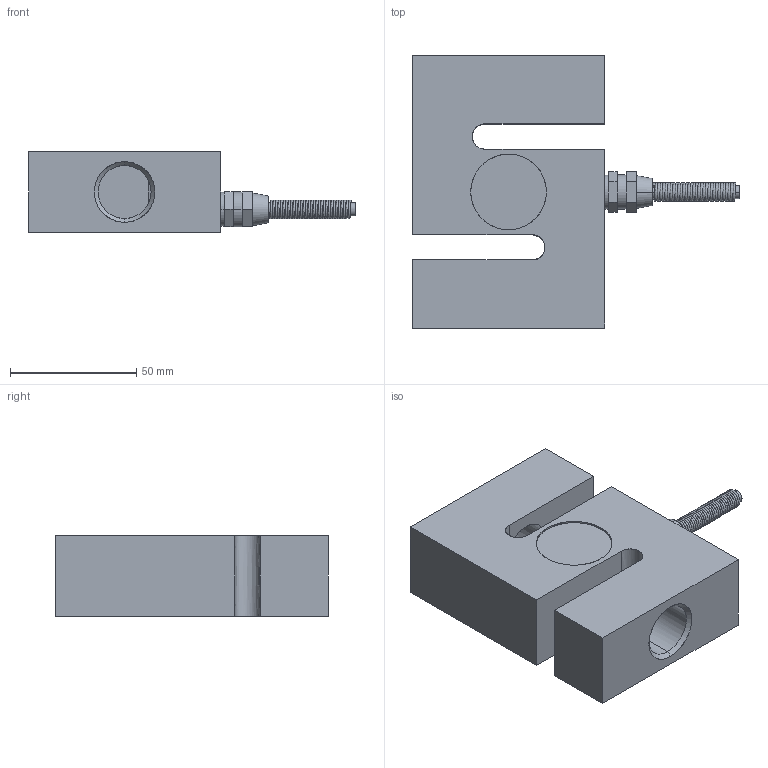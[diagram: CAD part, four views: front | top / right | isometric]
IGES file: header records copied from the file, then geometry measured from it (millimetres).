
Start section: SolidWorks IGES file using analytic representation for surfaces
Global section: file name: O:\16-Entwicklung\Projekte\03_Kraftsensoren\0229_KM1502\01_Mechanik & Gehäuse\01_Solid Works\01_Outline 3D files\3D_KM1502-50KN.IGS; native system: SolidWorks 2012; preprocessor: SolidWorks 2012; author: AndreB; date: 140123.155456; units: millimetre
Bounding box: 129.7 x 108 x 31.8 mm (x, y, z)
Surface area: 37988.1 mm2 (no closed solid volume)
Topology: 0 solids, 0 shells, 69 faces, 1014 edges, 1014 vertices
Faces by surface type: bspline 46, revolution 23
